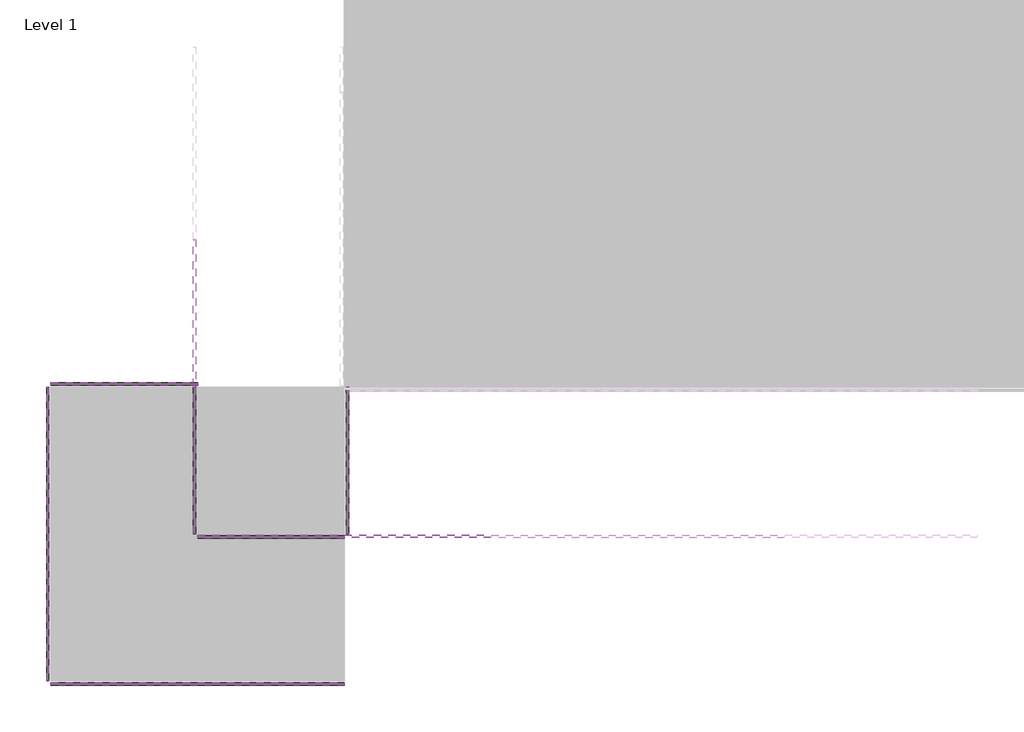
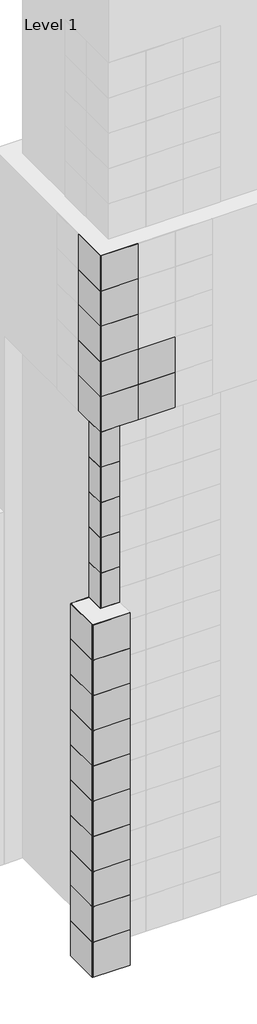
# One storey, part 1 of 15: 137 plates.
"""IFC4 building model written with IfcOpenShell, lengths in millimetres."""

from ifc_helpers import new_model, si_unit, origin, place, context, project, spatial, transform, mapped, element, save
from components import system_panel_glazed_9c75bc08, system_panel_glazed_0a0842ec, system_panel_glazed_aa64d645, system_panel_glazed_d5d3c74f

model = new_model("IFC4")

# Units and contexts
model_context = context("Model", 3, world=origin())
ifc_project = project(units=[si_unit("LENGTHUNIT", "METRE", prefix="MILLI")], contexts=[model_context])

# Site, building, storey
site = spatial("IfcSite", under=ifc_project)
building = spatial("IfcBuilding", under=site)
storey = spatial("IfcBuildingStorey", under=building, Name="Level 1", Elevation=0.0)

# Plates
placement = place(None, origin())
system_panel_glazed_shape = system_panel_glazed_9c75bc08(model_context)
element("IfcPlate", 1, ObjectType="System Panel : Glazed", at=placement, inside=storey, context=model_context, shape_type="MappedRepresentation", body=[
    mapped(system_panel_glazed_shape, transform((-20077.4161695, -5742.0504489, 0.0), x_axis=(1.0, 0.0, 0.0), y_axis=(0.0, 1.0, 0.0), z_axis=(0.0, 0.0, 1.0))),
])
element("IfcPlate", 2, ObjectType="System Panel : Glazed", at=placement, inside=storey, context=model_context, shape_type="MappedRepresentation", body=[
    mapped(system_panel_glazed_shape, transform((-20077.4161695, -5742.0504489, 3048.0), x_axis=(1.0, 0.0, 0.0), y_axis=(0.0, 1.0, 0.0), z_axis=(0.0, 0.0, 1.0))),
])
element("IfcPlate", 3, ObjectType="System Panel : Glazed", at=placement, inside=storey, context=model_context, shape_type="MappedRepresentation", body=[
    mapped(system_panel_glazed_shape, transform((-20077.4161695, -5742.0504489, 6096.0), x_axis=(1.0, 0.0, 0.0), y_axis=(0.0, 1.0, 0.0), z_axis=(0.0, 0.0, 1.0))),
])
element("IfcPlate", 4, ObjectType="System Panel : Glazed", at=placement, inside=storey, context=model_context, shape_type="MappedRepresentation", body=[
    mapped(system_panel_glazed_shape, transform((-20077.4161695, -5742.0504489, 9144.0), x_axis=(1.0, 0.0, 0.0), y_axis=(0.0, 1.0, 0.0), z_axis=(0.0, 0.0, 1.0))),
])
element("IfcPlate", 5, ObjectType="System Panel : Glazed", at=placement, inside=storey, context=model_context, shape_type="MappedRepresentation", body=[
    mapped(system_panel_glazed_shape, transform((-20077.4161695, -5742.0504489, 12192.0), x_axis=(1.0, 0.0, 0.0), y_axis=(0.0, 1.0, 0.0), z_axis=(0.0, 0.0, 1.0))),
])
element("IfcPlate", 6, ObjectType="System Panel : Glazed", at=placement, inside=storey, context=model_context, shape_type="MappedRepresentation", body=[
    mapped(system_panel_glazed_shape, transform((-20077.4161695, -5742.0504489, 15240.0), x_axis=(1.0, 0.0, 0.0), y_axis=(0.0, 1.0, 0.0), z_axis=(0.0, 0.0, 1.0))),
])
element("IfcPlate", 7, ObjectType="System Panel : Glazed", at=placement, inside=storey, context=model_context, shape_type="MappedRepresentation", body=[
    mapped(system_panel_glazed_shape, transform((-20077.4161695, -5742.0504489, 18288.0), x_axis=(1.0, 0.0, 0.0), y_axis=(0.0, 1.0, 0.0), z_axis=(0.0, 0.0, 1.0))),
])
element("IfcPlate", 8, ObjectType="System Panel : Glazed", at=placement, inside=storey, context=model_context, shape_type="MappedRepresentation", body=[
    mapped(system_panel_glazed_shape, transform((-20077.4161695, -5742.0504489, 21336.0), x_axis=(1.0, 0.0, 0.0), y_axis=(0.0, 1.0, 0.0), z_axis=(0.0, 0.0, 1.0))),
])
element("IfcPlate", 9, ObjectType="System Panel : Glazed", at=placement, inside=storey, context=model_context, shape_type="MappedRepresentation", body=[
    mapped(system_panel_glazed_shape, transform((-20077.4161695, -5742.0504489, 24384.0), x_axis=(1.0, 0.0, 0.0), y_axis=(0.0, 1.0, 0.0), z_axis=(0.0, 0.0, 1.0))),
])
element("IfcPlate", 10, ObjectType="System Panel : Glazed", at=placement, inside=storey, context=model_context, shape_type="MappedRepresentation", body=[
    mapped(system_panel_glazed_shape, transform((-20077.4161695, -5742.0504489, 27432.0), x_axis=(1.0, 0.0, 0.0), y_axis=(0.0, 1.0, 0.0), z_axis=(0.0, 0.0, 1.0))),
])
element("IfcPlate", 11, ObjectType="System Panel : Glazed", at=placement, inside=storey, context=model_context, shape_type="MappedRepresentation", body=[
    mapped(system_panel_glazed_shape, transform((-20077.4161695, -5742.0504489, 30480.0), x_axis=(1.0, 0.0, 0.0), y_axis=(0.0, 1.0, 0.0), z_axis=(0.0, 0.0, 1.0))),
])
element("IfcPlate", 12, ObjectType="System Panel : Glazed", at=placement, inside=storey, context=model_context, shape_type="MappedRepresentation", body=[
    mapped(system_panel_glazed_shape, transform((-20077.4161695, -5742.0504489, 33528.0), x_axis=(1.0, 0.0, 0.0), y_axis=(0.0, 1.0, 0.0), z_axis=(0.0, 0.0, 1.0))),
])
element("IfcPlate", 13, ObjectType="System Panel : Glazed", at=placement, inside=storey, context=model_context, shape_type="MappedRepresentation", body=[
    mapped(system_panel_glazed_shape, transform((-20077.4161695, -5742.0504489, 36576.0), x_axis=(1.0, 0.0, 0.0), y_axis=(0.0, 1.0, 0.0), z_axis=(0.0, 0.0, 1.0))),
])
element("IfcPlate", 14, ObjectType="System Panel : Glazed", at=placement, inside=storey, context=model_context, shape_type="MappedRepresentation", body=[
    mapped(system_panel_glazed_shape, transform((-20077.4161695, -5742.0504489, 39624.0), x_axis=(1.0, 0.0, 0.0), y_axis=(0.0, 1.0, 0.0), z_axis=(0.0, 0.0, 1.0))),
])
element("IfcPlate", 15, ObjectType="System Panel : Glazed", at=placement, inside=storey, context=model_context, shape_type="MappedRepresentation", body=[
    mapped(system_panel_glazed_shape, transform((-20077.4161695, -5742.0504489, 42672.0), x_axis=(1.0, 0.0, 0.0), y_axis=(0.0, 1.0, 0.0), z_axis=(0.0, 0.0, 1.0))),
])
element("IfcPlate", 16, ObjectType="System Panel : Glazed", at=placement, inside=storey, context=model_context, shape_type="MappedRepresentation", body=[
    mapped(system_panel_glazed_shape, transform((-20839.4161695, -4980.0504489, 0.0), x_axis=(0.0, -1.0, 0.0), y_axis=(1.0, 0.0, 0.0), z_axis=(0.0, 0.0, 1.0))),
])
element("IfcPlate", 17, ObjectType="System Panel : Glazed", at=placement, inside=storey, context=model_context, shape_type="MappedRepresentation", body=[
    mapped(system_panel_glazed_shape, transform((-20839.4161695, -4980.0504489, 3048.0), x_axis=(0.0, -1.0, 0.0), y_axis=(1.0, 0.0, 0.0), z_axis=(0.0, 0.0, 1.0))),
])
element("IfcPlate", 18, ObjectType="System Panel : Glazed", at=placement, inside=storey, context=model_context, shape_type="MappedRepresentation", body=[
    mapped(system_panel_glazed_shape, transform((-20839.4161695, -4980.0504489, 6096.0), x_axis=(0.0, -1.0, 0.0), y_axis=(1.0, 0.0, 0.0), z_axis=(0.0, 0.0, 1.0))),
])
element("IfcPlate", 19, ObjectType="System Panel : Glazed", at=placement, inside=storey, context=model_context, shape_type="MappedRepresentation", body=[
    mapped(system_panel_glazed_shape, transform((-20839.4161695, -4980.0504489, 9144.0), x_axis=(0.0, -1.0, 0.0), y_axis=(1.0, 0.0, 0.0), z_axis=(0.0, 0.0, 1.0))),
])
element("IfcPlate", 20, ObjectType="System Panel : Glazed", at=placement, inside=storey, context=model_context, shape_type="MappedRepresentation", body=[
    mapped(system_panel_glazed_shape, transform((-20839.4161695, -4980.0504489, 12192.0), x_axis=(0.0, -1.0, 0.0), y_axis=(1.0, 0.0, 0.0), z_axis=(0.0, 0.0, 1.0))),
])
element("IfcPlate", 21, ObjectType="System Panel : Glazed", at=placement, inside=storey, context=model_context, shape_type="MappedRepresentation", body=[
    mapped(system_panel_glazed_shape, transform((-20839.4161695, -4980.0504489, 15240.0), x_axis=(0.0, -1.0, 0.0), y_axis=(1.0, 0.0, 0.0), z_axis=(0.0, 0.0, 1.0))),
])
element("IfcPlate", 22, ObjectType="System Panel : Glazed", at=placement, inside=storey, context=model_context, shape_type="MappedRepresentation", body=[
    mapped(system_panel_glazed_shape, transform((-20839.4161695, -4980.0504489, 18288.0), x_axis=(0.0, -1.0, 0.0), y_axis=(1.0, 0.0, 0.0), z_axis=(0.0, 0.0, 1.0))),
])
element("IfcPlate", 23, ObjectType="System Panel : Glazed", at=placement, inside=storey, context=model_context, shape_type="MappedRepresentation", body=[
    mapped(system_panel_glazed_shape, transform((-20839.4161695, -4980.0504489, 21336.0), x_axis=(0.0, -1.0, 0.0), y_axis=(1.0, 0.0, 0.0), z_axis=(0.0, 0.0, 1.0))),
])
element("IfcPlate", 24, ObjectType="System Panel : Glazed", at=placement, inside=storey, context=model_context, shape_type="MappedRepresentation", body=[
    mapped(system_panel_glazed_shape, transform((-20839.4161695, -4980.0504489, 24384.0), x_axis=(0.0, -1.0, 0.0), y_axis=(1.0, 0.0, 0.0), z_axis=(0.0, 0.0, 1.0))),
])
element("IfcPlate", 25, ObjectType="System Panel : Glazed", at=placement, inside=storey, context=model_context, shape_type="MappedRepresentation", body=[
    mapped(system_panel_glazed_shape, transform((-20839.4161695, -4980.0504489, 27432.0), x_axis=(0.0, -1.0, 0.0), y_axis=(1.0, 0.0, 0.0), z_axis=(0.0, 0.0, 1.0))),
])
element("IfcPlate", 26, ObjectType="System Panel : Glazed", at=placement, inside=storey, context=model_context, shape_type="MappedRepresentation", body=[
    mapped(system_panel_glazed_shape, transform((-20839.4161695, -4980.0504489, 30480.0), x_axis=(0.0, -1.0, 0.0), y_axis=(1.0, 0.0, 0.0), z_axis=(0.0, 0.0, 1.0))),
])
element("IfcPlate", 27, ObjectType="System Panel : Glazed", at=placement, inside=storey, context=model_context, shape_type="MappedRepresentation", body=[
    mapped(system_panel_glazed_shape, transform((-20839.4161695, -4980.0504489, 33528.0), x_axis=(0.0, -1.0, 0.0), y_axis=(1.0, 0.0, 0.0), z_axis=(0.0, 0.0, 1.0))),
])
element("IfcPlate", 28, ObjectType="System Panel : Glazed", at=placement, inside=storey, context=model_context, shape_type="MappedRepresentation", body=[
    mapped(system_panel_glazed_shape, transform((-20839.4161695, -4980.0504489, 36576.0), x_axis=(0.0, -1.0, 0.0), y_axis=(1.0, 0.0, 0.0), z_axis=(0.0, 0.0, 1.0))),
])
element("IfcPlate", 29, ObjectType="System Panel : Glazed", at=placement, inside=storey, context=model_context, shape_type="MappedRepresentation", body=[
    mapped(system_panel_glazed_shape, transform((-20839.4161695, -4980.0504489, 39624.0), x_axis=(0.0, -1.0, 0.0), y_axis=(1.0, 0.0, 0.0), z_axis=(0.0, 0.0, 1.0))),
])
element("IfcPlate", 30, ObjectType="System Panel : Glazed", at=placement, inside=storey, context=model_context, shape_type="MappedRepresentation", body=[
    mapped(system_panel_glazed_shape, transform((-20839.4161695, -4980.0504489, 42672.0), x_axis=(0.0, -1.0, 0.0), y_axis=(1.0, 0.0, 0.0), z_axis=(0.0, 0.0, 1.0))),
])
element("IfcPlate", 31, ObjectType="System Panel : Glazed", at=placement, inside=storey, context=model_context, shape_type="MappedRepresentation", body=[
    mapped(system_panel_glazed_shape, transform((-20839.4161695, -4980.0504489, 0.0), x_axis=(0.0, -1.0, 0.0), y_axis=(1.0, 0.0, 0.0), z_axis=(0.0, 0.0, 1.0))),
])
element("IfcPlate", 32, ObjectType="System Panel : Glazed", at=placement, inside=storey, context=model_context, shape_type="MappedRepresentation", body=[
    mapped(system_panel_glazed_shape, transform((-20839.4161695, -4980.0504489, 3048.0), x_axis=(0.0, -1.0, 0.0), y_axis=(1.0, 0.0, 0.0), z_axis=(0.0, 0.0, 1.0))),
])
element("IfcPlate", 33, ObjectType="System Panel : Glazed", at=placement, inside=storey, context=model_context, shape_type="MappedRepresentation", body=[
    mapped(system_panel_glazed_shape, transform((-20839.4161695, -4980.0504489, 6096.0), x_axis=(0.0, -1.0, 0.0), y_axis=(1.0, 0.0, 0.0), z_axis=(0.0, 0.0, 1.0))),
])
element("IfcPlate", 34, ObjectType="System Panel : Glazed", at=placement, inside=storey, context=model_context, shape_type="MappedRepresentation", body=[
    mapped(system_panel_glazed_shape, transform((-20839.4161695, -4980.0504489, 9144.0), x_axis=(0.0, -1.0, 0.0), y_axis=(1.0, 0.0, 0.0), z_axis=(0.0, 0.0, 1.0))),
])
element("IfcPlate", 35, ObjectType="System Panel : Glazed", at=placement, inside=storey, context=model_context, shape_type="MappedRepresentation", body=[
    mapped(system_panel_glazed_shape, transform((-20839.4161695, -4980.0504489, 12192.0), x_axis=(0.0, -1.0, 0.0), y_axis=(1.0, 0.0, 0.0), z_axis=(0.0, 0.0, 1.0))),
])
element("IfcPlate", 36, ObjectType="System Panel : Glazed", at=placement, inside=storey, context=model_context, shape_type="MappedRepresentation", body=[
    mapped(system_panel_glazed_shape, transform((-20839.4161695, -4980.0504489, 15240.0), x_axis=(0.0, -1.0, 0.0), y_axis=(1.0, 0.0, 0.0), z_axis=(0.0, 0.0, 1.0))),
])
element("IfcPlate", 37, ObjectType="System Panel : Glazed", at=placement, inside=storey, context=model_context, shape_type="MappedRepresentation", body=[
    mapped(system_panel_glazed_shape, transform((-20839.4161695, -4980.0504489, 18288.0), x_axis=(0.0, -1.0, 0.0), y_axis=(1.0, 0.0, 0.0), z_axis=(0.0, 0.0, 1.0))),
])
element("IfcPlate", 38, ObjectType="System Panel : Glazed", at=placement, inside=storey, context=model_context, shape_type="MappedRepresentation", body=[
    mapped(system_panel_glazed_shape, transform((-20839.4161695, -4980.0504489, 21336.0), x_axis=(0.0, -1.0, 0.0), y_axis=(1.0, 0.0, 0.0), z_axis=(0.0, 0.0, 1.0))),
])
element("IfcPlate", 39, ObjectType="System Panel : Glazed", at=placement, inside=storey, context=model_context, shape_type="MappedRepresentation", body=[
    mapped(system_panel_glazed_shape, transform((-20839.4161695, -4980.0504489, 24384.0), x_axis=(0.0, -1.0, 0.0), y_axis=(1.0, 0.0, 0.0), z_axis=(0.0, 0.0, 1.0))),
])
element("IfcPlate", 40, ObjectType="System Panel : Glazed", at=placement, inside=storey, context=model_context, shape_type="MappedRepresentation", body=[
    mapped(system_panel_glazed_shape, transform((-20839.4161695, -4980.0504489, 27432.0), x_axis=(0.0, -1.0, 0.0), y_axis=(1.0, 0.0, 0.0), z_axis=(0.0, 0.0, 1.0))),
])
element("IfcPlate", 41, ObjectType="System Panel : Glazed", at=placement, inside=storey, context=model_context, shape_type="MappedRepresentation", body=[
    mapped(system_panel_glazed_shape, transform((-20839.4161695, -4980.0504489, 30480.0), x_axis=(0.0, -1.0, 0.0), y_axis=(1.0, 0.0, 0.0), z_axis=(0.0, 0.0, 1.0))),
])
element("IfcPlate", 42, ObjectType="System Panel : Glazed", at=placement, inside=storey, context=model_context, shape_type="MappedRepresentation", body=[
    mapped(system_panel_glazed_shape, transform((-20839.4161695, -4980.0504489, 33528.0), x_axis=(0.0, -1.0, 0.0), y_axis=(1.0, 0.0, 0.0), z_axis=(0.0, 0.0, 1.0))),
])
element("IfcPlate", 43, ObjectType="System Panel : Glazed", at=placement, inside=storey, context=model_context, shape_type="MappedRepresentation", body=[
    mapped(system_panel_glazed_shape, transform((-20839.4161695, -4980.0504489, 36576.0), x_axis=(0.0, -1.0, 0.0), y_axis=(1.0, 0.0, 0.0), z_axis=(0.0, 0.0, 1.0))),
])
element("IfcPlate", 44, ObjectType="System Panel : Glazed", at=placement, inside=storey, context=model_context, shape_type="MappedRepresentation", body=[
    mapped(system_panel_glazed_shape, transform((-20839.4161695, -4980.0504489, 39624.0), x_axis=(0.0, -1.0, 0.0), y_axis=(1.0, 0.0, 0.0), z_axis=(0.0, 0.0, 1.0))),
])
element("IfcPlate", 45, ObjectType="System Panel : Glazed", at=placement, inside=storey, context=model_context, shape_type="MappedRepresentation", body=[
    mapped(system_panel_glazed_shape, transform((-20839.4161695, -4980.0504489, 42672.0), x_axis=(0.0, -1.0, 0.0), y_axis=(1.0, 0.0, 0.0), z_axis=(0.0, 0.0, 1.0))),
])
element("IfcPlate", 46, ObjectType="System Panel : Glazed", at=placement, inside=storey, context=model_context, shape_type="MappedRepresentation", body=[
    mapped(system_panel_glazed_shape, transform((-21601.4161695, -4218.0504489, 0.0), x_axis=(-1.0, 0.0, 0.0), y_axis=(0.0, -1.0, 0.0), z_axis=(0.0, 0.0, 1.0))),
])
element("IfcPlate", 47, ObjectType="System Panel : Glazed", at=placement, inside=storey, context=model_context, shape_type="MappedRepresentation", body=[
    mapped(system_panel_glazed_shape, transform((-21601.4161695, -4218.0504489, 3048.0), x_axis=(-1.0, 0.0, 0.0), y_axis=(0.0, -1.0, 0.0), z_axis=(0.0, 0.0, 1.0))),
])
element("IfcPlate", 48, ObjectType="System Panel : Glazed", at=placement, inside=storey, context=model_context, shape_type="MappedRepresentation", body=[
    mapped(system_panel_glazed_shape, transform((-21601.4161695, -4218.0504489, 6096.0), x_axis=(-1.0, 0.0, 0.0), y_axis=(0.0, -1.0, 0.0), z_axis=(0.0, 0.0, 1.0))),
])
element("IfcPlate", 49, ObjectType="System Panel : Glazed", at=placement, inside=storey, context=model_context, shape_type="MappedRepresentation", body=[
    mapped(system_panel_glazed_shape, transform((-21601.4161695, -4218.0504489, 9144.0), x_axis=(-1.0, 0.0, 0.0), y_axis=(0.0, -1.0, 0.0), z_axis=(0.0, 0.0, 1.0))),
])
element("IfcPlate", 50, ObjectType="System Panel : Glazed", at=placement, inside=storey, context=model_context, shape_type="MappedRepresentation", body=[
    mapped(system_panel_glazed_shape, transform((-21601.4161695, -4218.0504489, 12192.0), x_axis=(-1.0, 0.0, 0.0), y_axis=(0.0, -1.0, 0.0), z_axis=(0.0, 0.0, 1.0))),
])
element("IfcPlate", 51, ObjectType="System Panel : Glazed", at=placement, inside=storey, context=model_context, shape_type="MappedRepresentation", body=[
    mapped(system_panel_glazed_shape, transform((-21601.4161695, -4218.0504489, 15240.0), x_axis=(-1.0, 0.0, 0.0), y_axis=(0.0, -1.0, 0.0), z_axis=(0.0, 0.0, 1.0))),
])
element("IfcPlate", 52, ObjectType="System Panel : Glazed", at=placement, inside=storey, context=model_context, shape_type="MappedRepresentation", body=[
    mapped(system_panel_glazed_shape, transform((-21601.4161695, -4218.0504489, 18288.0), x_axis=(-1.0, 0.0, 0.0), y_axis=(0.0, -1.0, 0.0), z_axis=(0.0, 0.0, 1.0))),
])
element("IfcPlate", 53, ObjectType="System Panel : Glazed", at=placement, inside=storey, context=model_context, shape_type="MappedRepresentation", body=[
    mapped(system_panel_glazed_shape, transform((-21601.4161695, -4218.0504489, 21336.0), x_axis=(-1.0, 0.0, 0.0), y_axis=(0.0, -1.0, 0.0), z_axis=(0.0, 0.0, 1.0))),
])
element("IfcPlate", 54, ObjectType="System Panel : Glazed", at=placement, inside=storey, context=model_context, shape_type="MappedRepresentation", body=[
    mapped(system_panel_glazed_shape, transform((-21601.4161695, -4218.0504489, 24384.0), x_axis=(-1.0, 0.0, 0.0), y_axis=(0.0, -1.0, 0.0), z_axis=(0.0, 0.0, 1.0))),
])
element("IfcPlate", 55, ObjectType="System Panel : Glazed", at=placement, inside=storey, context=model_context, shape_type="MappedRepresentation", body=[
    mapped(system_panel_glazed_shape, transform((-21601.4161695, -4218.0504489, 27432.0), x_axis=(-1.0, 0.0, 0.0), y_axis=(0.0, -1.0, 0.0), z_axis=(0.0, 0.0, 1.0))),
])
system_panel_glazed_2_shape = system_panel_glazed_0a0842ec(model_context)
element("IfcPlate", 56, ObjectType="System Panel : Glazed", at=placement, inside=storey, context=model_context, shape_type="MappedRepresentation", body=[
    mapped(system_panel_glazed_2_shape, transform((-19315.4161695, -5742.0504489, 45720.0), x_axis=(1.0, 0.0, 0.0), y_axis=(0.0, 1.0, 0.0), z_axis=(0.0, 0.0, 1.0))),
])
element("IfcPlate", 57, ObjectType="System Panel : Glazed", at=placement, inside=storey, context=model_context, shape_type="MappedRepresentation", body=[
    mapped(system_panel_glazed_2_shape, transform((-20839.4161695, -4218.0504489, 45720.0), x_axis=(0.0, -1.0, 0.0), y_axis=(1.0, 0.0, 0.0), z_axis=(0.0, 0.0, 1.0))),
])
element("IfcPlate", 58, ObjectType="System Panel : Glazed", at=placement, inside=storey, context=model_context, shape_type="MappedRepresentation", body=[
    mapped(system_panel_glazed_2_shape, transform((-20839.4161695, -4218.0504489, 45720.0), x_axis=(0.0, -1.0, 0.0), y_axis=(1.0, 0.0, 0.0), z_axis=(0.0, 0.0, 1.0))),
])
system_panel_glazed_3_shape = system_panel_glazed_aa64d645(model_context)
element("IfcPlate", 59, ObjectType="System Panel : Glazed", at=placement, inside=storey, context=model_context, shape_type="MappedRepresentation", body=[
    mapped(system_panel_glazed_3_shape, transform((-16267.4161695, -5742.0504489, 45720.0), x_axis=(1.0, 0.0, 0.0), y_axis=(0.0, 1.0, 0.0), z_axis=(0.0, 0.0, 1.0))),
])
element("IfcPlate", 60, ObjectType="System Panel : Glazed", at=placement, inside=storey, context=model_context, shape_type="MappedRepresentation", body=[
    mapped(system_panel_glazed_3_shape, transform((-19315.4161695, -5742.0504489, 48768.0), x_axis=(1.0, 0.0, 0.0), y_axis=(0.0, 1.0, 0.0), z_axis=(0.0, 0.0, 1.0))),
])
element("IfcPlate", 61, ObjectType="System Panel : Glazed", at=placement, inside=storey, context=model_context, shape_type="MappedRepresentation", body=[
    mapped(system_panel_glazed_3_shape, transform((-16267.4161695, -5742.0504489, 48768.0), x_axis=(1.0, 0.0, 0.0), y_axis=(0.0, 1.0, 0.0), z_axis=(0.0, 0.0, 1.0))),
])
element("IfcPlate", 62, ObjectType="System Panel : Glazed", at=placement, inside=storey, context=model_context, shape_type="MappedRepresentation", body=[
    mapped(system_panel_glazed_3_shape, transform((-19315.4161695, -5742.0504489, 51816.0), x_axis=(1.0, 0.0, 0.0), y_axis=(0.0, 1.0, 0.0), z_axis=(0.0, 0.0, 1.0))),
])
element("IfcPlate", 63, ObjectType="System Panel : Glazed", at=placement, inside=storey, context=model_context, shape_type="MappedRepresentation", body=[
    mapped(system_panel_glazed_3_shape, transform((-19315.4161695, -5742.0504489, 54864.0), x_axis=(1.0, 0.0, 0.0), y_axis=(0.0, 1.0, 0.0), z_axis=(0.0, 0.0, 1.0))),
])
element("IfcPlate", 64, ObjectType="System Panel : Glazed", at=placement, inside=storey, context=model_context, shape_type="MappedRepresentation", body=[
    mapped(system_panel_glazed_3_shape, transform((-19315.4161695, -5742.0504489, 57912.0), x_axis=(1.0, 0.0, 0.0), y_axis=(0.0, 1.0, 0.0), z_axis=(0.0, 0.0, 1.0))),
])
element("IfcPlate", 65, ObjectType="System Panel : Glazed", at=placement, inside=storey, context=model_context, shape_type="MappedRepresentation", body=[
    mapped(system_panel_glazed_3_shape, transform((-20839.4161695, -4218.0504489, 48768.0), x_axis=(0.0, -1.0, 0.0), y_axis=(1.0, 0.0, 0.0), z_axis=(0.0, 0.0, 1.0))),
])
element("IfcPlate", 66, ObjectType="System Panel : Glazed", at=placement, inside=storey, context=model_context, shape_type="MappedRepresentation", body=[
    mapped(system_panel_glazed_3_shape, transform((-20839.4161695, -4218.0504489, 51816.0), x_axis=(0.0, -1.0, 0.0), y_axis=(1.0, 0.0, 0.0), z_axis=(0.0, 0.0, 1.0))),
])
element("IfcPlate", 67, ObjectType="System Panel : Glazed", at=placement, inside=storey, context=model_context, shape_type="MappedRepresentation", body=[
    mapped(system_panel_glazed_3_shape, transform((-20839.4161695, -4218.0504489, 54864.0), x_axis=(0.0, -1.0, 0.0), y_axis=(1.0, 0.0, 0.0), z_axis=(0.0, 0.0, 1.0))),
])
element("IfcPlate", 68, ObjectType="System Panel : Glazed", at=placement, inside=storey, context=model_context, shape_type="MappedRepresentation", body=[
    mapped(system_panel_glazed_3_shape, transform((-20839.4161695, -4218.0504489, 57912.0), x_axis=(0.0, -1.0, 0.0), y_axis=(1.0, 0.0, 0.0), z_axis=(0.0, 0.0, 1.0))),
])
element("IfcPlate", 69, ObjectType="System Panel : Glazed", at=placement, inside=storey, context=model_context, shape_type="MappedRepresentation", body=[
    mapped(system_panel_glazed_3_shape, transform((-20839.4161695, -4218.0504489, 48768.0), x_axis=(0.0, -1.0, 0.0), y_axis=(1.0, 0.0, 0.0), z_axis=(0.0, 0.0, 1.0))),
])
element("IfcPlate", 70, ObjectType="System Panel : Glazed", at=placement, inside=storey, context=model_context, shape_type="MappedRepresentation", body=[
    mapped(system_panel_glazed_3_shape, transform((-20839.4161695, -4218.0504489, 51816.0), x_axis=(0.0, -1.0, 0.0), y_axis=(1.0, 0.0, 0.0), z_axis=(0.0, 0.0, 1.0))),
])
element("IfcPlate", 71, ObjectType="System Panel : Glazed", at=placement, inside=storey, context=model_context, shape_type="MappedRepresentation", body=[
    mapped(system_panel_glazed_3_shape, transform((-20839.4161695, -4218.0504489, 54864.0), x_axis=(0.0, -1.0, 0.0), y_axis=(1.0, 0.0, 0.0), z_axis=(0.0, 0.0, 1.0))),
])
element("IfcPlate", 72, ObjectType="System Panel : Glazed", at=placement, inside=storey, context=model_context, shape_type="MappedRepresentation", body=[
    mapped(system_panel_glazed_3_shape, transform((-20839.4161695, -4218.0504489, 57912.0), x_axis=(0.0, -1.0, 0.0), y_axis=(1.0, 0.0, 0.0), z_axis=(0.0, 0.0, 1.0))),
])
element("IfcPlate", 73, ObjectType="System Panel : Glazed", at=placement, inside=storey, context=model_context, shape_type="MappedRepresentation", body=[
    mapped(system_panel_glazed_3_shape, transform((-20839.4161695, -7266.0504489, 0.0), x_axis=(1.0, 0.0, 0.0), y_axis=(0.0, 1.0, 0.0), z_axis=(0.0, 0.0, 1.0))),
])
element("IfcPlate", 74, ObjectType="System Panel : Glazed", at=placement, inside=storey, context=model_context, shape_type="MappedRepresentation", body=[
    mapped(system_panel_glazed_3_shape, transform((-20839.4161695, -7266.0504489, 3048.0), x_axis=(1.0, 0.0, 0.0), y_axis=(0.0, 1.0, 0.0), z_axis=(0.0, 0.0, 1.0))),
])
element("IfcPlate", 75, ObjectType="System Panel : Glazed", at=placement, inside=storey, context=model_context, shape_type="MappedRepresentation", body=[
    mapped(system_panel_glazed_3_shape, transform((-20839.4161695, -7266.0504489, 6096.0), x_axis=(1.0, 0.0, 0.0), y_axis=(0.0, 1.0, 0.0), z_axis=(0.0, 0.0, 1.0))),
])
element("IfcPlate", 76, ObjectType="System Panel : Glazed", at=placement, inside=storey, context=model_context, shape_type="MappedRepresentation", body=[
    mapped(system_panel_glazed_3_shape, transform((-20839.4161695, -7266.0504489, 9144.0), x_axis=(1.0, 0.0, 0.0), y_axis=(0.0, 1.0, 0.0), z_axis=(0.0, 0.0, 1.0))),
])
element("IfcPlate", 77, ObjectType="System Panel : Glazed", at=placement, inside=storey, context=model_context, shape_type="MappedRepresentation", body=[
    mapped(system_panel_glazed_3_shape, transform((-20839.4161695, -7266.0504489, 12192.0), x_axis=(1.0, 0.0, 0.0), y_axis=(0.0, 1.0, 0.0), z_axis=(0.0, 0.0, 1.0))),
])
element("IfcPlate", 78, ObjectType="System Panel : Glazed", at=placement, inside=storey, context=model_context, shape_type="MappedRepresentation", body=[
    mapped(system_panel_glazed_3_shape, transform((-20839.4161695, -7266.0504489, 15240.0), x_axis=(1.0, 0.0, 0.0), y_axis=(0.0, 1.0, 0.0), z_axis=(0.0, 0.0, 1.0))),
])
element("IfcPlate", 79, ObjectType="System Panel : Glazed", at=placement, inside=storey, context=model_context, shape_type="MappedRepresentation", body=[
    mapped(system_panel_glazed_3_shape, transform((-20839.4161695, -7266.0504489, 18288.0), x_axis=(1.0, 0.0, 0.0), y_axis=(0.0, 1.0, 0.0), z_axis=(0.0, 0.0, 1.0))),
])
element("IfcPlate", 80, ObjectType="System Panel : Glazed", at=placement, inside=storey, context=model_context, shape_type="MappedRepresentation", body=[
    mapped(system_panel_glazed_3_shape, transform((-20839.4161695, -7266.0504489, 21336.0), x_axis=(1.0, 0.0, 0.0), y_axis=(0.0, 1.0, 0.0), z_axis=(0.0, 0.0, 1.0))),
])
element("IfcPlate", 81, ObjectType="System Panel : Glazed", at=placement, inside=storey, context=model_context, shape_type="MappedRepresentation", body=[
    mapped(system_panel_glazed_3_shape, transform((-20839.4161695, -7266.0504489, 24384.0), x_axis=(1.0, 0.0, 0.0), y_axis=(0.0, 1.0, 0.0), z_axis=(0.0, 0.0, 1.0))),
])
element("IfcPlate", 82, ObjectType="System Panel : Glazed", at=placement, inside=storey, context=model_context, shape_type="MappedRepresentation", body=[
    mapped(system_panel_glazed_3_shape, transform((-20839.4161695, -7266.0504489, 27432.0), x_axis=(1.0, 0.0, 0.0), y_axis=(0.0, 1.0, 0.0), z_axis=(0.0, 0.0, 1.0))),
])
element("IfcPlate", 83, ObjectType="System Panel : Glazed", at=placement, inside=storey, context=model_context, shape_type="MappedRepresentation", body=[
    mapped(system_panel_glazed_3_shape, transform((-22363.4161695, -5742.0504489, 0.0), x_axis=(0.0, -1.0, 0.0), y_axis=(1.0, 0.0, 0.0), z_axis=(0.0, 0.0, 1.0))),
])
element("IfcPlate", 84, ObjectType="System Panel : Glazed", at=placement, inside=storey, context=model_context, shape_type="MappedRepresentation", body=[
    mapped(system_panel_glazed_3_shape, transform((-22363.4161695, -5742.0504489, 3048.0), x_axis=(0.0, -1.0, 0.0), y_axis=(1.0, 0.0, 0.0), z_axis=(0.0, 0.0, 1.0))),
])
element("IfcPlate", 85, ObjectType="System Panel : Glazed", at=placement, inside=storey, context=model_context, shape_type="MappedRepresentation", body=[
    mapped(system_panel_glazed_3_shape, transform((-22363.4161695, -5742.0504489, 6096.0), x_axis=(0.0, -1.0, 0.0), y_axis=(1.0, 0.0, 0.0), z_axis=(0.0, 0.0, 1.0))),
])
element("IfcPlate", 86, ObjectType="System Panel : Glazed", at=placement, inside=storey, context=model_context, shape_type="MappedRepresentation", body=[
    mapped(system_panel_glazed_3_shape, transform((-22363.4161695, -5742.0504489, 9144.0), x_axis=(0.0, -1.0, 0.0), y_axis=(1.0, 0.0, 0.0), z_axis=(0.0, 0.0, 1.0))),
])
element("IfcPlate", 87, ObjectType="System Panel : Glazed", at=placement, inside=storey, context=model_context, shape_type="MappedRepresentation", body=[
    mapped(system_panel_glazed_3_shape, transform((-22363.4161695, -5742.0504489, 12192.0), x_axis=(0.0, -1.0, 0.0), y_axis=(1.0, 0.0, 0.0), z_axis=(0.0, 0.0, 1.0))),
])
element("IfcPlate", 88, ObjectType="System Panel : Glazed", at=placement, inside=storey, context=model_context, shape_type="MappedRepresentation", body=[
    mapped(system_panel_glazed_3_shape, transform((-22363.4161695, -5742.0504489, 15240.0), x_axis=(0.0, -1.0, 0.0), y_axis=(1.0, 0.0, 0.0), z_axis=(0.0, 0.0, 1.0))),
])
element("IfcPlate", 89, ObjectType="System Panel : Glazed", at=placement, inside=storey, context=model_context, shape_type="MappedRepresentation", body=[
    mapped(system_panel_glazed_3_shape, transform((-22363.4161695, -5742.0504489, 18288.0), x_axis=(0.0, -1.0, 0.0), y_axis=(1.0, 0.0, 0.0), z_axis=(0.0, 0.0, 1.0))),
])
element("IfcPlate", 90, ObjectType="System Panel : Glazed", at=placement, inside=storey, context=model_context, shape_type="MappedRepresentation", body=[
    mapped(system_panel_glazed_3_shape, transform((-22363.4161695, -5742.0504489, 21336.0), x_axis=(0.0, -1.0, 0.0), y_axis=(1.0, 0.0, 0.0), z_axis=(0.0, 0.0, 1.0))),
])
element("IfcPlate", 91, ObjectType="System Panel : Glazed", at=placement, inside=storey, context=model_context, shape_type="MappedRepresentation", body=[
    mapped(system_panel_glazed_3_shape, transform((-22363.4161695, -5742.0504489, 24384.0), x_axis=(0.0, -1.0, 0.0), y_axis=(1.0, 0.0, 0.0), z_axis=(0.0, 0.0, 1.0))),
])
element("IfcPlate", 92, ObjectType="System Panel : Glazed", at=placement, inside=storey, context=model_context, shape_type="MappedRepresentation", body=[
    mapped(system_panel_glazed_3_shape, transform((-22363.4161695, -5742.0504489, 27432.0), x_axis=(0.0, -1.0, 0.0), y_axis=(1.0, 0.0, 0.0), z_axis=(0.0, 0.0, 1.0))),
])
element("IfcPlate", 93, ObjectType="System Panel : Glazed", at=placement, inside=storey, context=model_context, shape_type="MappedRepresentation", body=[
    mapped(system_panel_glazed_3_shape, transform((-22363.4161695, -5742.0504489, 0.0), x_axis=(0.0, -1.0, 0.0), y_axis=(1.0, 0.0, 0.0), z_axis=(0.0, 0.0, 1.0))),
])
element("IfcPlate", 94, ObjectType="System Panel : Glazed", at=placement, inside=storey, context=model_context, shape_type="MappedRepresentation", body=[
    mapped(system_panel_glazed_3_shape, transform((-22363.4161695, -5742.0504489, 3048.0), x_axis=(0.0, -1.0, 0.0), y_axis=(1.0, 0.0, 0.0), z_axis=(0.0, 0.0, 1.0))),
])
element("IfcPlate", 95, ObjectType="System Panel : Glazed", at=placement, inside=storey, context=model_context, shape_type="MappedRepresentation", body=[
    mapped(system_panel_glazed_3_shape, transform((-22363.4161695, -5742.0504489, 6096.0), x_axis=(0.0, -1.0, 0.0), y_axis=(1.0, 0.0, 0.0), z_axis=(0.0, 0.0, 1.0))),
])
element("IfcPlate", 96, ObjectType="System Panel : Glazed", at=placement, inside=storey, context=model_context, shape_type="MappedRepresentation", body=[
    mapped(system_panel_glazed_3_shape, transform((-22363.4161695, -5742.0504489, 9144.0), x_axis=(0.0, -1.0, 0.0), y_axis=(1.0, 0.0, 0.0), z_axis=(0.0, 0.0, 1.0))),
])
element("IfcPlate", 97, ObjectType="System Panel : Glazed", at=placement, inside=storey, context=model_context, shape_type="MappedRepresentation", body=[
    mapped(system_panel_glazed_3_shape, transform((-22363.4161695, -5742.0504489, 12192.0), x_axis=(0.0, -1.0, 0.0), y_axis=(1.0, 0.0, 0.0), z_axis=(0.0, 0.0, 1.0))),
])
element("IfcPlate", 98, ObjectType="System Panel : Glazed", at=placement, inside=storey, context=model_context, shape_type="MappedRepresentation", body=[
    mapped(system_panel_glazed_3_shape, transform((-22363.4161695, -5742.0504489, 15240.0), x_axis=(0.0, -1.0, 0.0), y_axis=(1.0, 0.0, 0.0), z_axis=(0.0, 0.0, 1.0))),
])
element("IfcPlate", 99, ObjectType="System Panel : Glazed", at=placement, inside=storey, context=model_context, shape_type="MappedRepresentation", body=[
    mapped(system_panel_glazed_3_shape, transform((-22363.4161695, -5742.0504489, 18288.0), x_axis=(0.0, -1.0, 0.0), y_axis=(1.0, 0.0, 0.0), z_axis=(0.0, 0.0, 1.0))),
])
element("IfcPlate", 100, ObjectType="System Panel : Glazed", at=placement, inside=storey, context=model_context, shape_type="MappedRepresentation", body=[
    mapped(system_panel_glazed_3_shape, transform((-22363.4161695, -5742.0504489, 21336.0), x_axis=(0.0, -1.0, 0.0), y_axis=(1.0, 0.0, 0.0), z_axis=(0.0, 0.0, 1.0))),
])
element("IfcPlate", 101, ObjectType="System Panel : Glazed", at=placement, inside=storey, context=model_context, shape_type="MappedRepresentation", body=[
    mapped(system_panel_glazed_3_shape, transform((-22363.4161695, -5742.0504489, 24384.0), x_axis=(0.0, -1.0, 0.0), y_axis=(1.0, 0.0, 0.0), z_axis=(0.0, 0.0, 1.0))),
])
element("IfcPlate", 102, ObjectType="System Panel : Glazed", at=placement, inside=storey, context=model_context, shape_type="MappedRepresentation", body=[
    mapped(system_panel_glazed_3_shape, transform((-22363.4161695, -5742.0504489, 27432.0), x_axis=(0.0, -1.0, 0.0), y_axis=(1.0, 0.0, 0.0), z_axis=(0.0, 0.0, 1.0))),
])
element("IfcPlate", 103, ObjectType="System Panel : Glazed", at=placement, inside=storey, context=model_context, shape_type="MappedRepresentation", body=[
    mapped(system_panel_glazed_3_shape, transform((-22363.4161695, -5742.0504489, 0.0), x_axis=(0.0, -1.0, 0.0), y_axis=(1.0, 0.0, 0.0), z_axis=(0.0, 0.0, 1.0))),
])
element("IfcPlate", 104, ObjectType="System Panel : Glazed", at=placement, inside=storey, context=model_context, shape_type="MappedRepresentation", body=[
    mapped(system_panel_glazed_3_shape, transform((-22363.4161695, -5742.0504489, 3048.0), x_axis=(0.0, -1.0, 0.0), y_axis=(1.0, 0.0, 0.0), z_axis=(0.0, 0.0, 1.0))),
])
element("IfcPlate", 105, ObjectType="System Panel : Glazed", at=placement, inside=storey, context=model_context, shape_type="MappedRepresentation", body=[
    mapped(system_panel_glazed_3_shape, transform((-22363.4161695, -5742.0504489, 6096.0), x_axis=(0.0, -1.0, 0.0), y_axis=(1.0, 0.0, 0.0), z_axis=(0.0, 0.0, 1.0))),
])
element("IfcPlate", 106, ObjectType="System Panel : Glazed", at=placement, inside=storey, context=model_context, shape_type="MappedRepresentation", body=[
    mapped(system_panel_glazed_3_shape, transform((-22363.4161695, -5742.0504489, 9144.0), x_axis=(0.0, -1.0, 0.0), y_axis=(1.0, 0.0, 0.0), z_axis=(0.0, 0.0, 1.0))),
])
element("IfcPlate", 107, ObjectType="System Panel : Glazed", at=placement, inside=storey, context=model_context, shape_type="MappedRepresentation", body=[
    mapped(system_panel_glazed_3_shape, transform((-22363.4161695, -5742.0504489, 12192.0), x_axis=(0.0, -1.0, 0.0), y_axis=(1.0, 0.0, 0.0), z_axis=(0.0, 0.0, 1.0))),
])
element("IfcPlate", 108, ObjectType="System Panel : Glazed", at=placement, inside=storey, context=model_context, shape_type="MappedRepresentation", body=[
    mapped(system_panel_glazed_3_shape, transform((-22363.4161695, -5742.0504489, 15240.0), x_axis=(0.0, -1.0, 0.0), y_axis=(1.0, 0.0, 0.0), z_axis=(0.0, 0.0, 1.0))),
])
element("IfcPlate", 109, ObjectType="System Panel : Glazed", at=placement, inside=storey, context=model_context, shape_type="MappedRepresentation", body=[
    mapped(system_panel_glazed_3_shape, transform((-22363.4161695, -5742.0504489, 18288.0), x_axis=(0.0, -1.0, 0.0), y_axis=(1.0, 0.0, 0.0), z_axis=(0.0, 0.0, 1.0))),
])
element("IfcPlate", 110, ObjectType="System Panel : Glazed", at=placement, inside=storey, context=model_context, shape_type="MappedRepresentation", body=[
    mapped(system_panel_glazed_3_shape, transform((-22363.4161695, -5742.0504489, 21336.0), x_axis=(0.0, -1.0, 0.0), y_axis=(1.0, 0.0, 0.0), z_axis=(0.0, 0.0, 1.0))),
])
element("IfcPlate", 111, ObjectType="System Panel : Glazed", at=placement, inside=storey, context=model_context, shape_type="MappedRepresentation", body=[
    mapped(system_panel_glazed_3_shape, transform((-22363.4161695, -5742.0504489, 24384.0), x_axis=(0.0, -1.0, 0.0), y_axis=(1.0, 0.0, 0.0), z_axis=(0.0, 0.0, 1.0))),
])
element("IfcPlate", 112, ObjectType="System Panel : Glazed", at=placement, inside=storey, context=model_context, shape_type="MappedRepresentation", body=[
    mapped(system_panel_glazed_3_shape, transform((-22363.4161695, -5742.0504489, 27432.0), x_axis=(0.0, -1.0, 0.0), y_axis=(1.0, 0.0, 0.0), z_axis=(0.0, 0.0, 1.0))),
])
element("IfcPlate", 113, ObjectType="System Panel : Glazed", at=placement, inside=storey, context=model_context, shape_type="MappedRepresentation", body=[
    mapped(system_panel_glazed_3_shape, transform((-20839.4161695, -7266.0504489, 0.0), x_axis=(1.0, 0.0, 0.0), y_axis=(0.0, 1.0, 0.0), z_axis=(0.0, 0.0, 1.0))),
])
element("IfcPlate", 114, ObjectType="System Panel : Glazed", at=placement, inside=storey, context=model_context, shape_type="MappedRepresentation", body=[
    mapped(system_panel_glazed_3_shape, transform((-20839.4161695, -7266.0504489, 3048.0), x_axis=(1.0, 0.0, 0.0), y_axis=(0.0, 1.0, 0.0), z_axis=(0.0, 0.0, 1.0))),
])
element("IfcPlate", 115, ObjectType="System Panel : Glazed", at=placement, inside=storey, context=model_context, shape_type="MappedRepresentation", body=[
    mapped(system_panel_glazed_3_shape, transform((-20839.4161695, -7266.0504489, 6096.0), x_axis=(1.0, 0.0, 0.0), y_axis=(0.0, 1.0, 0.0), z_axis=(0.0, 0.0, 1.0))),
])
element("IfcPlate", 116, ObjectType="System Panel : Glazed", at=placement, inside=storey, context=model_context, shape_type="MappedRepresentation", body=[
    mapped(system_panel_glazed_3_shape, transform((-20839.4161695, -7266.0504489, 9144.0), x_axis=(1.0, 0.0, 0.0), y_axis=(0.0, 1.0, 0.0), z_axis=(0.0, 0.0, 1.0))),
])
element("IfcPlate", 117, ObjectType="System Panel : Glazed", at=placement, inside=storey, context=model_context, shape_type="MappedRepresentation", body=[
    mapped(system_panel_glazed_3_shape, transform((-20839.4161695, -7266.0504489, 12192.0), x_axis=(1.0, 0.0, 0.0), y_axis=(0.0, 1.0, 0.0), z_axis=(0.0, 0.0, 1.0))),
])
element("IfcPlate", 118, ObjectType="System Panel : Glazed", at=placement, inside=storey, context=model_context, shape_type="MappedRepresentation", body=[
    mapped(system_panel_glazed_3_shape, transform((-20839.4161695, -7266.0504489, 15240.0), x_axis=(1.0, 0.0, 0.0), y_axis=(0.0, 1.0, 0.0), z_axis=(0.0, 0.0, 1.0))),
])
element("IfcPlate", 119, ObjectType="System Panel : Glazed", at=placement, inside=storey, context=model_context, shape_type="MappedRepresentation", body=[
    mapped(system_panel_glazed_3_shape, transform((-20839.4161695, -7266.0504489, 18288.0), x_axis=(1.0, 0.0, 0.0), y_axis=(0.0, 1.0, 0.0), z_axis=(0.0, 0.0, 1.0))),
])
element("IfcPlate", 120, ObjectType="System Panel : Glazed", at=placement, inside=storey, context=model_context, shape_type="MappedRepresentation", body=[
    mapped(system_panel_glazed_3_shape, transform((-20839.4161695, -7266.0504489, 21336.0), x_axis=(1.0, 0.0, 0.0), y_axis=(0.0, 1.0, 0.0), z_axis=(0.0, 0.0, 1.0))),
])
element("IfcPlate", 121, ObjectType="System Panel : Glazed", at=placement, inside=storey, context=model_context, shape_type="MappedRepresentation", body=[
    mapped(system_panel_glazed_3_shape, transform((-20839.4161695, -7266.0504489, 24384.0), x_axis=(1.0, 0.0, 0.0), y_axis=(0.0, 1.0, 0.0), z_axis=(0.0, 0.0, 1.0))),
])
element("IfcPlate", 122, ObjectType="System Panel : Glazed", at=placement, inside=storey, context=model_context, shape_type="MappedRepresentation", body=[
    mapped(system_panel_glazed_3_shape, transform((-20839.4161695, -7266.0504489, 27432.0), x_axis=(1.0, 0.0, 0.0), y_axis=(0.0, 1.0, 0.0), z_axis=(0.0, 0.0, 1.0))),
])
system_panel_glazed_4_shape = system_panel_glazed_d5d3c74f(model_context)
element("IfcPlate", 123, ObjectType="System Panel : Glazed", at=placement, inside=storey, context=model_context, shape_type="MappedRepresentation", body=[
    mapped(system_panel_glazed_4_shape, transform((-19315.4161695, -4980.0504489, 0.0), x_axis=(0.0, -1.0, 0.0), y_axis=(1.0, 0.0, 0.0), z_axis=(0.0, 0.0, 1.0))),
])
element("IfcPlate", 124, ObjectType="System Panel : Glazed", at=placement, inside=storey, context=model_context, shape_type="MappedRepresentation", body=[
    mapped(system_panel_glazed_4_shape, transform((-19315.4161695, -4980.0504489, 3048.0), x_axis=(0.0, -1.0, 0.0), y_axis=(1.0, 0.0, 0.0), z_axis=(0.0, 0.0, 1.0))),
])
element("IfcPlate", 125, ObjectType="System Panel : Glazed", at=placement, inside=storey, context=model_context, shape_type="MappedRepresentation", body=[
    mapped(system_panel_glazed_4_shape, transform((-19315.4161695, -4980.0504489, 6096.0), x_axis=(0.0, -1.0, 0.0), y_axis=(1.0, 0.0, 0.0), z_axis=(0.0, 0.0, 1.0))),
])
element("IfcPlate", 126, ObjectType="System Panel : Glazed", at=placement, inside=storey, context=model_context, shape_type="MappedRepresentation", body=[
    mapped(system_panel_glazed_4_shape, transform((-19315.4161695, -4980.0504489, 9144.0), x_axis=(0.0, -1.0, 0.0), y_axis=(1.0, 0.0, 0.0), z_axis=(0.0, 0.0, 1.0))),
])
element("IfcPlate", 127, ObjectType="System Panel : Glazed", at=placement, inside=storey, context=model_context, shape_type="MappedRepresentation", body=[
    mapped(system_panel_glazed_4_shape, transform((-19315.4161695, -4980.0504489, 12192.0), x_axis=(0.0, -1.0, 0.0), y_axis=(1.0, 0.0, 0.0), z_axis=(0.0, 0.0, 1.0))),
])
element("IfcPlate", 128, ObjectType="System Panel : Glazed", at=placement, inside=storey, context=model_context, shape_type="MappedRepresentation", body=[
    mapped(system_panel_glazed_4_shape, transform((-19315.4161695, -4980.0504489, 15240.0), x_axis=(0.0, -1.0, 0.0), y_axis=(1.0, 0.0, 0.0), z_axis=(0.0, 0.0, 1.0))),
])
element("IfcPlate", 129, ObjectType="System Panel : Glazed", at=placement, inside=storey, context=model_context, shape_type="MappedRepresentation", body=[
    mapped(system_panel_glazed_4_shape, transform((-19315.4161695, -4980.0504489, 18288.0), x_axis=(0.0, -1.0, 0.0), y_axis=(1.0, 0.0, 0.0), z_axis=(0.0, 0.0, 1.0))),
])
element("IfcPlate", 130, ObjectType="System Panel : Glazed", at=placement, inside=storey, context=model_context, shape_type="MappedRepresentation", body=[
    mapped(system_panel_glazed_4_shape, transform((-19315.4161695, -4980.0504489, 21336.0), x_axis=(0.0, -1.0, 0.0), y_axis=(1.0, 0.0, 0.0), z_axis=(0.0, 0.0, 1.0))),
])
element("IfcPlate", 131, ObjectType="System Panel : Glazed", at=placement, inside=storey, context=model_context, shape_type="MappedRepresentation", body=[
    mapped(system_panel_glazed_4_shape, transform((-19315.4161695, -4980.0504489, 24384.0), x_axis=(0.0, -1.0, 0.0), y_axis=(1.0, 0.0, 0.0), z_axis=(0.0, 0.0, 1.0))),
])
element("IfcPlate", 132, ObjectType="System Panel : Glazed", at=placement, inside=storey, context=model_context, shape_type="MappedRepresentation", body=[
    mapped(system_panel_glazed_4_shape, transform((-19315.4161695, -4980.0504489, 27432.0), x_axis=(0.0, -1.0, 0.0), y_axis=(1.0, 0.0, 0.0), z_axis=(0.0, 0.0, 1.0))),
])
element("IfcPlate", 133, ObjectType="System Panel : Glazed", at=placement, inside=storey, context=model_context, shape_type="MappedRepresentation", body=[
    mapped(system_panel_glazed_4_shape, transform((-19315.4161695, -4980.0504489, 30480.0), x_axis=(0.0, -1.0, 0.0), y_axis=(1.0, 0.0, 0.0), z_axis=(0.0, 0.0, 1.0))),
])
element("IfcPlate", 134, ObjectType="System Panel : Glazed", at=placement, inside=storey, context=model_context, shape_type="MappedRepresentation", body=[
    mapped(system_panel_glazed_4_shape, transform((-19315.4161695, -4980.0504489, 33528.0), x_axis=(0.0, -1.0, 0.0), y_axis=(1.0, 0.0, 0.0), z_axis=(0.0, 0.0, 1.0))),
])
element("IfcPlate", 135, ObjectType="System Panel : Glazed", at=placement, inside=storey, context=model_context, shape_type="MappedRepresentation", body=[
    mapped(system_panel_glazed_4_shape, transform((-19315.4161695, -4980.0504489, 36576.0), x_axis=(0.0, -1.0, 0.0), y_axis=(1.0, 0.0, 0.0), z_axis=(0.0, 0.0, 1.0))),
])
element("IfcPlate", 136, ObjectType="System Panel : Glazed", at=placement, inside=storey, context=model_context, shape_type="MappedRepresentation", body=[
    mapped(system_panel_glazed_4_shape, transform((-19315.4161695, -4980.0504489, 39624.0), x_axis=(0.0, -1.0, 0.0), y_axis=(1.0, 0.0, 0.0), z_axis=(0.0, 0.0, 1.0))),
])
element("IfcPlate", 137, ObjectType="System Panel : Glazed", at=placement, inside=storey, context=model_context, shape_type="MappedRepresentation", body=[
    mapped(system_panel_glazed_4_shape, transform((-19315.4161695, -4980.0504489, 42672.0), x_axis=(0.0, -1.0, 0.0), y_axis=(1.0, 0.0, 0.0), z_axis=(0.0, 0.0, 1.0))),
])

save(model, "model.ifc")
